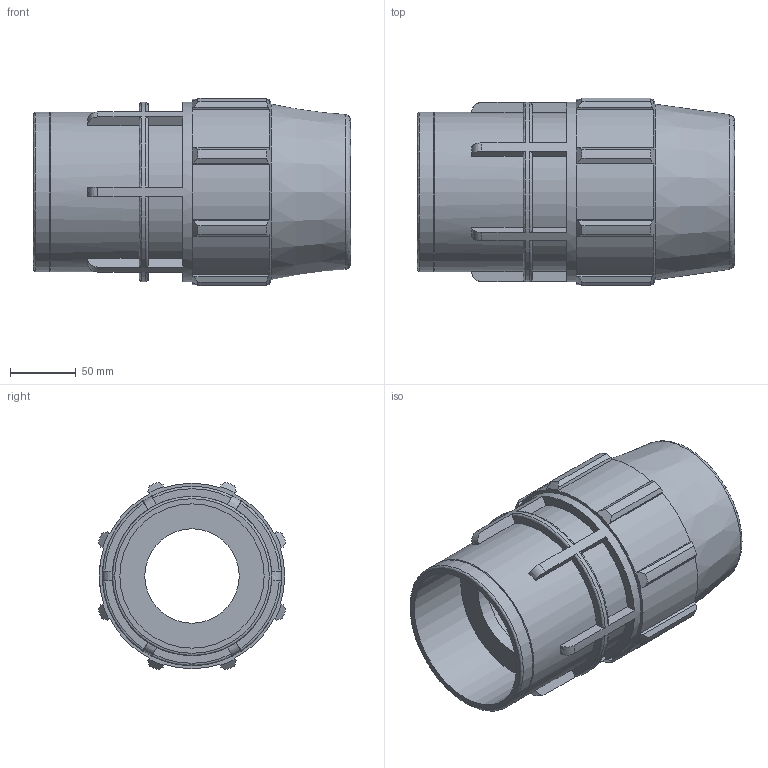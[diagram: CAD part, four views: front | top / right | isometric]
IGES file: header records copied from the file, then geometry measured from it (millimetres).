
Global section: file name: 870300090040_180300090040_840306090040.ipt; native system: Autodesk Inventor 2015; preprocessor: unknown; author: KIM; date: 20180325.201159; units: millimetre
Bounding box: 242 x 143.02 x 143.02 mm (x, y, z)
Volume: 1492444.3 mm3; surface area: 203941.1 mm2
Topology: 1 solids, 1 shells, 142 faces, 395 edges, 265 vertices
Faces by surface type: plane 80, revolution 25, cylinder 25, cone 12
Full cylindrical faces by diameter (mm): 121.6 x2, 136.8 x1
